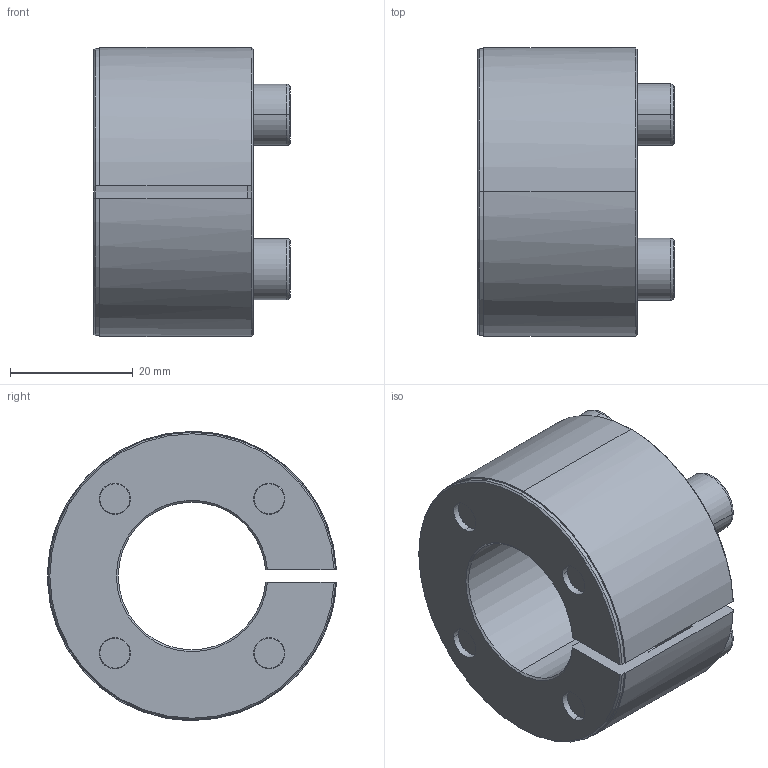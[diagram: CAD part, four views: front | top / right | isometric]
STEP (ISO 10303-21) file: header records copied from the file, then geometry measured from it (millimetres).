
FILE_DESCRIPTION (( 'STEP AP214' ), '1' );
FILE_NAME ('SAPL-E-24-47.STEP', '2024-07-12T02:14:04', ( '决扁浅何厘' ), ( '' ), 'SwSTEP 2.0', 'SolidWorks 2024', '' );
FILE_SCHEMA (( 'AUTOMOTIVE_DESIGN' ));
Length unit declared in the file: millimetre
Products named in the file (1): SAPL-E-24-47
Bounding box: 31.99 x 46.98 x 47 mm (x, y, z)
Volume: 25846.5 mm3; surface area: 15650.8 mm2
Topology: 1 solids, 1 shells, 187 faces, 437 edges, 256 vertices
Faces by surface type: plane 64, cylinder 48, cone 43, torus 32
Entity records: 5396 total; most frequent: CARTESIAN_POINT 1015, DIRECTION 992, ORIENTED_EDGE 858, EDGE_CURVE 429, AXIS2_PLACEMENT_3D 402, VERTEX_POINT 256, CIRCLE 214, EDGE_LOOP 213
